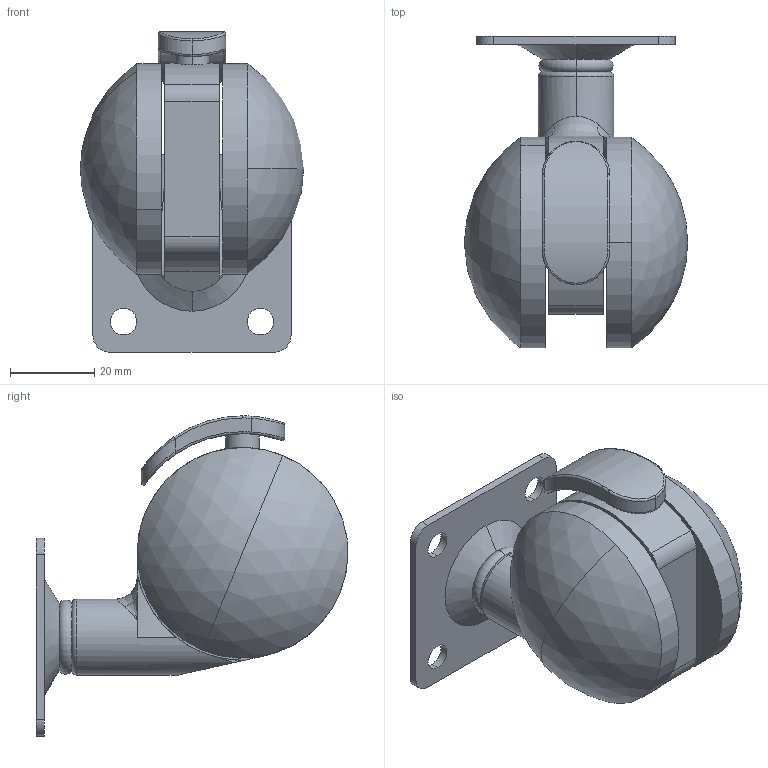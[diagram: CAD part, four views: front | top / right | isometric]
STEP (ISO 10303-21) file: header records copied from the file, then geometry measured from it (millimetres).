
FILE_DESCRIPTION (( 'STEP AP214' ), '1' );
FILE_NAME ('BOLA-50S-P1.STEP', '2020-04-01T07:10:40', ( '' ), ( '' ), 'SwSTEP 2.0', 'SolidWorks 2019', '' );
FILE_SCHEMA (( 'AUTOMOTIVE_DESIGN' ));
Length unit declared in the file: millimetre
Products named in the file (5): BOLA-50-P1_partsA; BOLA-50S_partsB; BOLA-50S_stopper; BOLA-50-P1_wheel; BOLA-50S-P1
Assembly tree (5 placements, depth 2):
  BOLA-50S-P1
    BOLA-50S_partsB
    BOLA-50-P1_wheel  x2
    BOLA-50-P1_partsA
    BOLA-50S_stopper
Bounding box: 53 x 74 x 76 mm (x, y, z)
Volume: 90132.1 mm3; surface area: 24540.7 mm2
Topology: 5 solids, 5 shells, 89 faces, 210 edges, 132 vertices
Faces by surface type: cylinder 39, plane 21, torus 12, bspline 11, sphere 4, cone 2
Entity records: 4053 total; most frequent: CARTESIAN_POINT 1947, DIRECTION 417, ORIENTED_EDGE 396, EDGE_CURVE 198, AXIS2_PLACEMENT_3D 180, VERTEX_POINT 125, CIRCLE 99, EDGE_LOOP 95
